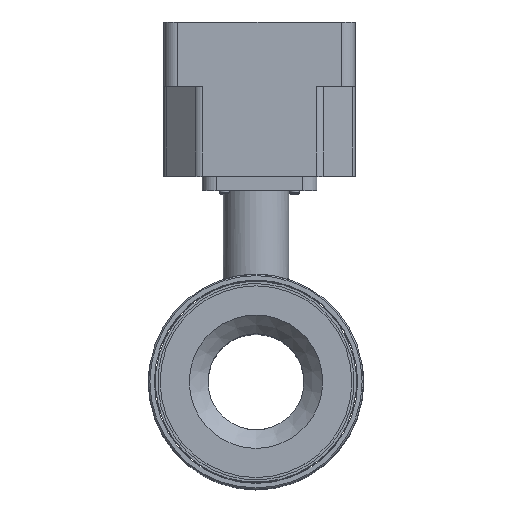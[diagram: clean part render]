
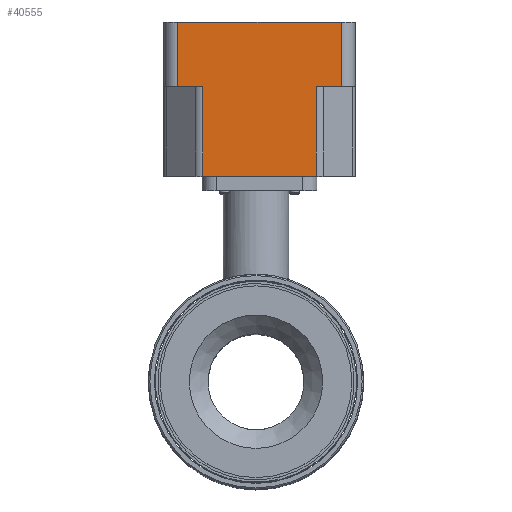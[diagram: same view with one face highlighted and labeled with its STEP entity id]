
A CAD part, top view. The second image highlights one B-rep face of the part: STEP entity #40555.
In plain terms, the highlighted planar face has unit normal (0, 0, 1).
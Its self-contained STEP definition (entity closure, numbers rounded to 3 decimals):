
#536=PLANE('',#43122);
#3488=FACE_OUTER_BOUND('',#5768,.T.);
#5768=EDGE_LOOP('',(#27381,#27382,#27383,#27384,#27385,#27386,#27387,#27388));
#8242=LINE('',#57202,#12097);
#8255=LINE('',#57253,#12110);
#8256=LINE('',#57255,#12111);
#8257=LINE('',#57257,#12112);
#8258=LINE('',#57259,#12113);
#8259=LINE('',#57261,#12114);
#8260=LINE('',#57263,#12115);
#8261=LINE('',#57264,#12116);
#12097=VECTOR('',#46633,10.);
#12110=VECTOR('',#46672,10.);
#12111=VECTOR('',#46673,10.);
#12112=VECTOR('',#46674,10.);
#12113=VECTOR('',#46675,10.);
#12114=VECTOR('',#46676,10.);
#12115=VECTOR('',#46677,10.);
#12116=VECTOR('',#46678,10.);
#16984=VERTEX_POINT('',#57188);
#16990=VERTEX_POINT('',#57200);
#17015=VERTEX_POINT('',#57252);
#17016=VERTEX_POINT('',#57254);
#17017=VERTEX_POINT('',#57256);
#17018=VERTEX_POINT('',#57258);
#17019=VERTEX_POINT('',#57260);
#17020=VERTEX_POINT('',#57262);
#21007=EDGE_CURVE('',#16984,#16990,#8242,.T.);
#21032=EDGE_CURVE('',#16984,#17015,#8255,.T.);
#21033=EDGE_CURVE('',#17016,#16990,#8256,.T.);
#21034=EDGE_CURVE('',#17016,#17017,#8257,.T.);
#21035=EDGE_CURVE('',#17018,#17017,#8258,.T.);
#21036=EDGE_CURVE('',#17018,#17019,#8259,.T.);
#21037=EDGE_CURVE('',#17020,#17019,#8260,.T.);
#21038=EDGE_CURVE('',#17015,#17020,#8261,.T.);
#27381=ORIENTED_EDGE('',*,*,#21032,.F.);
#27382=ORIENTED_EDGE('',*,*,#21007,.T.);
#27383=ORIENTED_EDGE('',*,*,#21033,.F.);
#27384=ORIENTED_EDGE('',*,*,#21034,.T.);
#27385=ORIENTED_EDGE('',*,*,#21035,.F.);
#27386=ORIENTED_EDGE('',*,*,#21036,.T.);
#27387=ORIENTED_EDGE('',*,*,#21037,.F.);
#27388=ORIENTED_EDGE('',*,*,#21038,.F.);
#40555=ADVANCED_FACE('',(#3488),#536,.T.);
#43122=AXIS2_PLACEMENT_3D('',#57251,#46670,#46671);
#46633=DIRECTION('',(-1.,0.,0.));
#46670=DIRECTION('center_axis',(0.,0.,
1.));
#46671=DIRECTION('ref_axis',(0.,1.,0.));
#46672=DIRECTION('',(0.,-1.,0.));
#46673=DIRECTION('',(0.,1.,0.));
#46674=DIRECTION('',(1.,0.,0.));
#46675=DIRECTION('',(0.,1.,0.));
#46676=DIRECTION('',(1.,0.,0.));
#46677=DIRECTION('',(0.,-1.,0.));
#46678=DIRECTION('',(-1.,0.,0.));
#57188=CARTESIAN_POINT('',(36.573,18.734,124.45));
#57200=CARTESIAN_POINT('',(-33.427,18.734,124.45));
#57202=CARTESIAN_POINT('',(42.573,18.734,124.45));
#57251=CARTESIAN_POINT('Origin',(42.573,5.234,124.45));
#57252=CARTESIAN_POINT('',(36.573,-8.766,124.45));
#57253=CARTESIAN_POINT('',(36.573,5.234,124.45));
#57254=CARTESIAN_POINT('',(-33.427,-8.766,124.45));
#57255=CARTESIAN_POINT('',(-33.427,5.234,124.45));
#57256=CARTESIAN_POINT('',(-22.77,-8.766,124.45));
#57257=CARTESIAN_POINT('',(-18.927,-8.766,124.45));
#57258=CARTESIAN_POINT('',(-22.77,-47.266,124.45));
#57259=CARTESIAN_POINT('',(-22.77,-21.016,124.45));
#57260=CARTESIAN_POINT('',(25.916,-47.266,124.45));
#57261=CARTESIAN_POINT('',(42.573,-47.266,124.45));
#57262=CARTESIAN_POINT('',(25.916,-8.766,124.45));
#57263=CARTESIAN_POINT('',(25.916,-21.016,124.45));
#57264=CARTESIAN_POINT('',(-18.927,-8.766,124.45));
